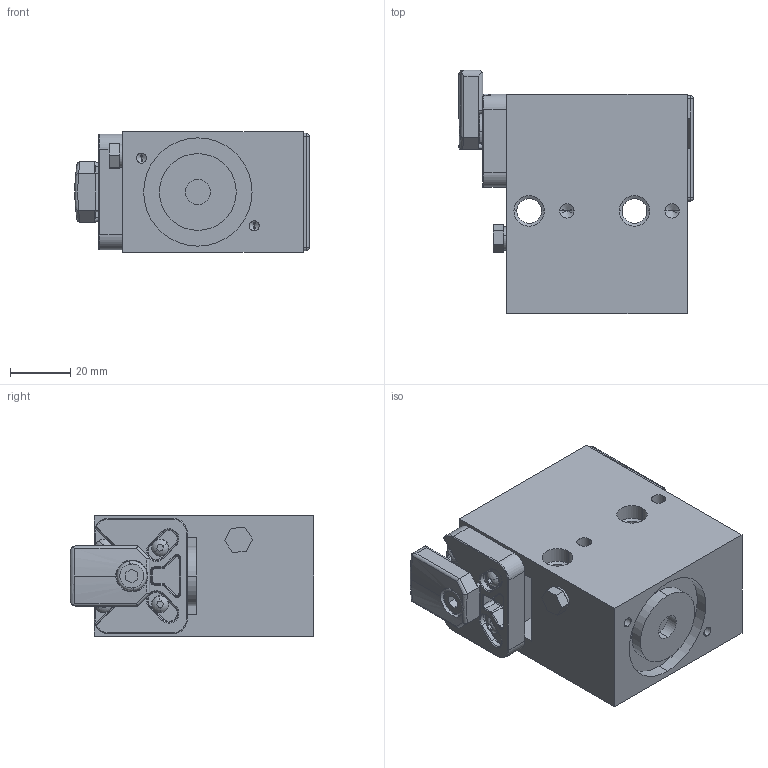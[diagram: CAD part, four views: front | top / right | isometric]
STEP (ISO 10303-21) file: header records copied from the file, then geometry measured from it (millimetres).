
FILE_DESCRIPTION (( 'STEP AP203' ), '1' );
FILE_NAME ('DBS-90-08-EW.STEP', '2022-06-30T11:37:50', ( '' ), ( '' ), 'SwSTEP 2.0', 'SolidWorks 2019', '' );
FILE_SCHEMA (( 'CONFIG_CONTROL_DESIGN' ));
Length unit declared in the file: millimetre
Products named in the file (1): DBS-90-08-EW
Bounding box: 77.9 x 81.03 x 40 mm (x, y, z)
Volume: 169317.1 mm3; surface area: 44695.3 mm2
Topology: 17 solids, 17 shells, 531 faces, 1270 edges, 767 vertices
Faces by surface type: cylinder 200, plane 197, cone 59, torus 52, sphere 17, bspline 6
Entity records: 15758 total; most frequent: CARTESIAN_POINT 3276, DIRECTION 2767, ORIENTED_EDGE 2452, EDGE_CURVE 1226, AXIS2_PLACEMENT_3D 1062, VERTEX_POINT 765, LINE 643, VECTOR 643
